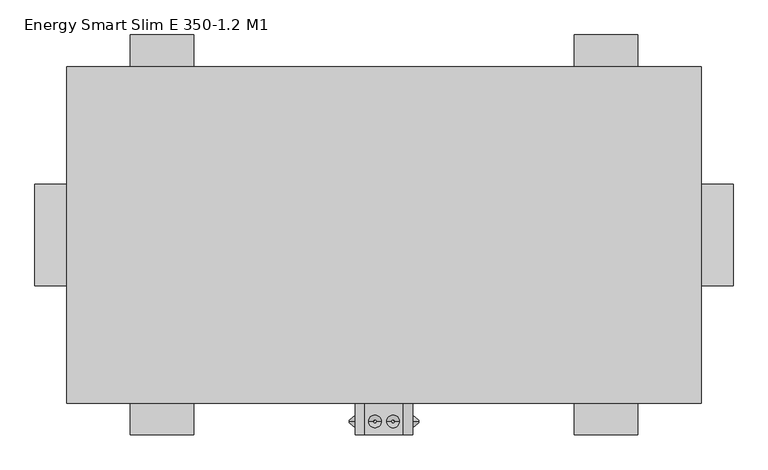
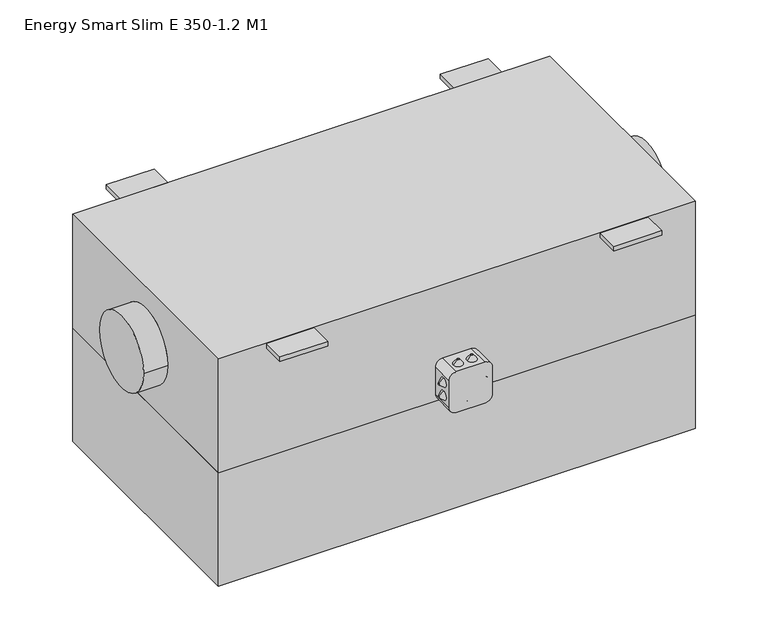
"""IFC4 building model written with IfcOpenShell, lengths in millimetres: proxy geometry, ADSK_КПВУ_ENERGY SMART SLIM E_круглая : Energy Smart Slim E 350-1.2 M1."""

from ifc_helpers import new_model, si_unit, point, frame, frame_2d, origin, place, context, project, spatial, polyline, circle_curve, trimmed, segment, composite_curve, outline, extrude, source, transform, mapped, element, save
from ifc_brep_helpers import plane_surface, cylinder_surface, revolved_surface, advanced_brep


def energy_smart_slim_e_350_1_2_m1_bdb5f192(model_context):
    return source(origin(), model_context, "Body", "SolidModel", [
        advanced_brep(
        [(211.0, -293.9311792, -97.7092609), (211.0, -293.9311792, -93.7092609), (221.0, -293.9311792, -105.7092609), (221.0, -293.9311792, -85.7092609)],
        [
            (0, 1, circle_curve(frame((211.0, -293.9311792, -95.7092609), z_axis=(-1.0, 0.0, 0.0), x_axis=(0.0, 0.0, -1.0)), 2.0)),
            (1, 0, circle_curve(frame((211.0, -293.9311792, -95.7092609), z_axis=(-1.0, 0.0, 0.0), x_axis=(0.0, 0.0, 1.0)), 2.0)),
            (2, 3, circle_curve(frame((221.0, -293.9311792, -95.7092609), z_axis=(1.0, 0.0, 0.0), x_axis=(0.0, 0.0, 1.0)), 10.0)),
            (3, 2, circle_curve(frame((221.0, -293.9311792, -95.7092609), z_axis=(1.0, 0.0, 0.0), x_axis=(0.0, 0.0, -1.0)), 10.0)),
            (2, 0),
            (1, 3),
        ],
        [
            plane_surface(frame((211.0, -293.9311792, -95.7092609), z_axis=(-1.0, 0.0, 0.0), x_axis=(0.0, -1.0, 0.0))),
            plane_surface(frame((221.0, -293.9311792, -95.7092609), z_axis=(1.0, 0.0, 0.0), x_axis=(0.0, -1.0, 0.0))),
            revolved_surface(polyline([(211.0, -293.9311792, -93.7092609), (221.0, -293.9311792, -85.7092609)]), (208.5, -293.9311792, -95.7092609), (1.0, 0.0, 0.0)),
            revolved_surface(polyline([(211.0, -293.9311792, -97.7092609), (221.0, -293.9311792, -105.7092609)]), (208.5, -293.9311792, -95.7092609), (1.0, 0.0, 0.0)),
        ],
        [
            (0, [[1, 2]]),
            (1, [[3, 4]]),
            (2, [[-3, 5, -2, 6]]),
            (3, [[-4, -6, -1, -5]]),
        ],
    ),
        advanced_brep(
        [(211.0, -293.9311792, -65.0531164), (211.0, -293.9311792, -69.0531164), (221.0, -293.9311792, -57.0531164), (221.0, -293.9311792, -77.0531164)],
        [
            (0, 1, circle_curve(frame((211.0, -293.9311792, -67.0531164), z_axis=(-1.0, 0.0, 0.0), x_axis=(0.0, 0.0, 1.0)), 2.0)),
            (1, 0, circle_curve(frame((211.0, -293.9311792, -67.0531164), z_axis=(-1.0, 0.0, 0.0), x_axis=(0.0, 0.0, -1.0)), 2.0)),
            (2, 3, circle_curve(frame((221.0, -293.9311792, -67.0531164), z_axis=(1.0, 0.0, 0.0), x_axis=(0.0, 0.0, -1.0)), 10.0)),
            (3, 2, circle_curve(frame((221.0, -293.9311792, -67.0531164), z_axis=(1.0, 0.0, 0.0), x_axis=(0.0, 0.0, 1.0)), 10.0)),
            (3, 1),
            (0, 2),
        ],
        [
            plane_surface(frame((211.0, -293.9311792, -67.0531164), z_axis=(-1.0, 0.0, 0.0), x_axis=(0.0, 1.0, 0.0))),
            plane_surface(frame((221.0, -293.9311792, -67.0531164), z_axis=(1.0, 0.0, 0.0), x_axis=(0.0, 1.0, 0.0))),
            revolved_surface(polyline([(211.0, -293.9311792, -65.0531164), (221.0, -293.9311792, -57.0531164)]), (208.5, -293.9311792, -67.0531164), (1.0, 0.0, 0.0)),
            revolved_surface(polyline([(211.0, -293.9311792, -69.0531164), (221.0, -293.9311792, -77.0531164)]), (208.5, -293.9311792, -67.0531164), (1.0, 0.0, 0.0)),
        ],
        [
            (0, [[1, 2]]),
            (1, [[3, 4]]),
            (2, [[-4, 5, -1, 6]]),
            (3, [[-3, -6, -2, -5]]),
        ],
    ),
        advanced_brep(
        [(321.0, -293.9311792, -97.7092609), (321.0, -293.9311792, -93.7092609), (311.0, -293.9311792, -105.7092609), (311.0, -293.9311792, -85.7092609)],
        [
            (0, 1, circle_curve(frame((321.0, -293.9311792, -95.7092609), z_axis=(1.0, 0.0, 0.0), x_axis=(0.0, 0.0, -1.0)), 2.0)),
            (1, 0, circle_curve(frame((321.0, -293.9311792, -95.7092609), z_axis=(1.0, 0.0, 0.0), x_axis=(0.0, 0.0, 1.0)), 2.0)),
            (2, 3, circle_curve(frame((311.0, -293.9311792, -95.7092609), z_axis=(-1.0, 0.0, 0.0), x_axis=(0.0, 0.0, 1.0)), 10.0)),
            (3, 2, circle_curve(frame((311.0, -293.9311792, -95.7092609), z_axis=(-1.0, 0.0, 0.0), x_axis=(0.0, 0.0, -1.0)), 10.0)),
            (3, 1),
            (0, 2),
        ],
        [
            plane_surface(frame((321.0, -293.9311792, -95.7092609), z_axis=(1.0, 0.0, 0.0), x_axis=(0.0, 1.0, 0.0))),
            plane_surface(frame((311.0, -293.9311792, -95.7092609), z_axis=(-1.0, 0.0, 0.0), x_axis=(0.0, 1.0, 0.0))),
            revolved_surface(polyline([(321.0, -293.9311792, -97.7092609), (311.0, -293.9311792, -105.7092609)]), (323.5, -293.9311792, -95.7092609), (-1.0, 0.0, 0.0)),
            revolved_surface(polyline([(321.0, -293.9311792, -93.7092609), (311.0, -293.9311792, -85.7092609)]), (323.5, -293.9311792, -95.7092609), (-1.0, 0.0, 0.0)),
        ],
        [
            (0, [[1, 2]]),
            (1, [[3, 4]]),
            (2, [[-4, 5, -1, 6]]),
            (3, [[-3, -6, -2, -5]]),
        ],
    ),
        advanced_brep(
        [(321.0, -293.9311792, -65.0531164), (321.0, -293.9311792, -69.0531164), (311.0, -293.9311792, -57.0531164), (311.0, -293.9311792, -77.0531164)],
        [
            (0, 1, circle_curve(frame((321.0, -293.9311792, -67.0531164), z_axis=(1.0, 0.0, 0.0), x_axis=(0.0, 0.0, 1.0)), 2.0)),
            (1, 0, circle_curve(frame((321.0, -293.9311792, -67.0531164), z_axis=(1.0, 0.0, 0.0), x_axis=(0.0, 0.0, -1.0)), 2.0)),
            (2, 3, circle_curve(frame((311.0, -293.9311792, -67.0531164), z_axis=(-1.0, 0.0, 0.0), x_axis=(0.0, 0.0, -1.0)), 10.0)),
            (3, 2, circle_curve(frame((311.0, -293.9311792, -67.0531164), z_axis=(-1.0, 0.0, 0.0), x_axis=(0.0, 0.0, 1.0)), 10.0)),
            (2, 0),
            (1, 3),
        ],
        [
            plane_surface(frame((321.0, -293.9311792, -67.0531164), z_axis=(1.0, 0.0, 0.0), x_axis=(0.0, -1.0, 0.0))),
            plane_surface(frame((311.0, -293.9311792, -67.0531164), z_axis=(-1.0, 0.0, 0.0), x_axis=(0.0, -1.0, 0.0))),
            revolved_surface(polyline([(321.0, -293.9311792, -69.0531164), (311.0, -293.9311792, -77.0531164)]), (323.5, -293.9311792, -67.0531164), (-1.0, 0.0, 0.0)),
            revolved_surface(polyline([(321.0, -293.9311792, -65.0531164), (311.0, -293.9311792, -57.0531164)]), (323.5, -293.9311792, -67.0531164), (-1.0, 0.0, 0.0)),
        ],
        [
            (0, [[1, 2]]),
            (1, [[3, 4]]),
            (2, [[-3, 5, -2, 6]]),
            (3, [[-4, -6, -1, -5]]),
        ],
    ),
        advanced_brep(
        [(249.6719278, -293.9311792, -136.0), (253.6719278, -293.9311792, -136.0), (241.6719278, -293.9311792, -126.0), (261.6719278, -293.9311792, -126.0)],
        [
            (0, 1, circle_curve(frame((251.6719278, -293.9311792, -136.0), z_axis=(0.0, 0.0, -1.0), x_axis=(-1.0, 0.0, 0.0)), 2.0)),
            (1, 0, circle_curve(frame((251.6719278, -293.9311792, -136.0), z_axis=(0.0, 0.0, -1.0), x_axis=(1.0, 0.0, 0.0)), 2.0)),
            (2, 3, circle_curve(frame((251.6719278, -293.9311792, -126.0), z_axis=(0.0, 0.0, 1.0), x_axis=(1.0, 0.0, 0.0)), 10.0)),
            (3, 2, circle_curve(frame((251.6719278, -293.9311792, -126.0), z_axis=(0.0, 0.0, 1.0), x_axis=(-1.0, 0.0, 0.0)), 10.0)),
            (3, 1),
            (0, 2),
        ],
        [
            plane_surface(frame((251.6719278, -293.9311792, -136.0), z_axis=(0.0, 0.0, -1.0), x_axis=(0.0, 1.0, 0.0))),
            plane_surface(frame((251.6719278, -293.9311792, -126.0), z_axis=(0.0, 0.0, 1.0), x_axis=(0.0, 1.0, 0.0))),
            revolved_surface(polyline([(249.6719278, -293.9311792, -136.0), (241.6719278, -293.9311792, -126.0)]), (251.6719278, -293.9311792, -138.5), (0.0, 0.0, 1.0)),
            revolved_surface(polyline([(253.6719278, -293.9311792, -136.0), (261.6719278, -293.9311792, -126.0)]), (251.6719278, -293.9311792, -138.5), (0.0, 0.0, 1.0)),
        ],
        [
            (0, [[1, 2]]),
            (1, [[3, 4]]),
            (2, [[-4, 5, -1, 6]]),
            (3, [[-3, -6, -2, -5]]),
        ],
    ),
        advanced_brep(
        [(282.3280722, -293.9311792, -136.0), (278.3280722, -293.9311792, -136.0), (290.3280722, -293.9311792, -126.0), (270.3280722, -293.9311792, -126.0)],
        [
            (0, 1, circle_curve(frame((280.3280722, -293.9311792, -136.0), z_axis=(0.0, 0.0, -1.0), x_axis=(1.0, 0.0, 0.0)), 2.0)),
            (1, 0, circle_curve(frame((280.3280722, -293.9311792, -136.0), z_axis=(0.0, 0.0, -1.0), x_axis=(-1.0, 0.0, 0.0)), 2.0)),
            (2, 3, circle_curve(frame((280.3280722, -293.9311792, -126.0), z_axis=(0.0, 0.0, 1.0), x_axis=(-1.0, 0.0, 0.0)), 10.0)),
            (3, 2, circle_curve(frame((280.3280722, -293.9311792, -126.0), z_axis=(0.0, 0.0, 1.0), x_axis=(1.0, 0.0, 0.0)), 10.0)),
            (2, 0),
            (1, 3),
        ],
        [
            plane_surface(frame((280.3280722, -293.9311792, -136.0), z_axis=(0.0, 0.0, -1.0), x_axis=(0.0, -1.0, 0.0))),
            plane_surface(frame((280.3280722, -293.9311792, -126.0), z_axis=(0.0, 0.0, 1.0), x_axis=(0.0, -1.0, 0.0))),
            revolved_surface(polyline([(278.3280722, -293.9311792, -136.0), (270.3280722, -293.9311792, -126.0)]), (280.3280722, -293.9311792, -138.5), (0.0, 0.0, 1.0)),
            revolved_surface(polyline([(282.3280722, -293.9311792, -136.0), (290.3280722, -293.9311792, -126.0)]), (280.3280722, -293.9311792, -138.5), (0.0, 0.0, 1.0)),
        ],
        [
            (0, [[1, 2]]),
            (1, [[3, 4]]),
            (2, [[-3, 5, -2, 6]]),
            (3, [[-4, -6, -1, -5]]),
        ],
    ),
        advanced_brep(
        [(249.6719278, -293.9311792, -26.0), (253.6719278, -293.9311792, -26.0), (241.6719278, -293.9311792, -36.0), (261.6719278, -293.9311792, -36.0)],
        [
            (0, 1, circle_curve(frame((251.6719278, -293.9311792, -26.0), z_axis=(0.0, 0.0, 1.0), x_axis=(-1.0, 0.0, 0.0)), 2.0)),
            (1, 0, circle_curve(frame((251.6719278, -293.9311792, -26.0), z_axis=(0.0, 0.0, 1.0), x_axis=(1.0, 0.0, 0.0)), 2.0)),
            (2, 3, circle_curve(frame((251.6719278, -293.9311792, -36.0), z_axis=(0.0, 0.0, -1.0), x_axis=(1.0, 0.0, 0.0)), 10.0)),
            (3, 2, circle_curve(frame((251.6719278, -293.9311792, -36.0), z_axis=(0.0, 0.0, -1.0), x_axis=(-1.0, 0.0, 0.0)), 10.0)),
            (2, 0),
            (1, 3),
        ],
        [
            plane_surface(frame((251.6719278, -293.9311792, -26.0), z_axis=(0.0, 0.0, 1.0), x_axis=(0.0, -1.0, 0.0))),
            plane_surface(frame((251.6719278, -293.9311792, -36.0), z_axis=(0.0, 0.0, -1.0), x_axis=(0.0, -1.0, 0.0))),
            revolved_surface(polyline([(253.6719278, -293.9311792, -26.0), (261.6719278, -293.9311792, -36.0)]), (251.6719278, -293.9311792, -23.5), (0.0, 0.0, -1.0)),
            revolved_surface(polyline([(249.6719278, -293.9311792, -26.0), (241.6719278, -293.9311792, -36.0)]), (251.6719278, -293.9311792, -23.5), (0.0, 0.0, -1.0)),
        ],
        [
            (0, [[1, 2]]),
            (1, [[3, 4]]),
            (2, [[-3, 5, -2, 6]]),
            (3, [[-4, -6, -1, -5]]),
        ],
    ),
        advanced_brep(
        [(282.3280722, -293.9311792, -26.0), (278.3280722, -293.9311792, -26.0), (290.3280722, -293.9311792, -36.0), (270.3280722, -293.9311792, -36.0)],
        [
            (0, 1, circle_curve(frame((280.3280722, -293.9311792, -26.0), z_axis=(0.0, 0.0, 1.0), x_axis=(1.0, 0.0, 0.0)), 2.0)),
            (1, 0, circle_curve(frame((280.3280722, -293.9311792, -26.0), z_axis=(0.0, 0.0, 1.0), x_axis=(-1.0, 0.0, 0.0)), 2.0)),
            (2, 3, circle_curve(frame((280.3280722, -293.9311792, -36.0), z_axis=(0.0, 0.0, -1.0), x_axis=(-1.0, 0.0, 0.0)), 10.0)),
            (3, 2, circle_curve(frame((280.3280722, -293.9311792, -36.0), z_axis=(0.0, 0.0, -1.0), x_axis=(1.0, 0.0, 0.0)), 10.0)),
            (3, 1),
            (0, 2),
        ],
        [
            plane_surface(frame((280.3280722, -293.9311792, -26.0), z_axis=(0.0, 0.0, 1.0), x_axis=(0.0, 1.0, 0.0))),
            plane_surface(frame((280.3280722, -293.9311792, -36.0), z_axis=(0.0, 0.0, -1.0), x_axis=(0.0, 1.0, 0.0))),
            revolved_surface(polyline([(282.3280722, -293.9311792, -26.0), (290.3280722, -293.9311792, -36.0)]), (280.3280722, -293.9311792, -23.5), (0.0, 0.0, -1.0)),
            revolved_surface(polyline([(278.3280722, -293.9311792, -26.0), (270.3280722, -293.9311792, -36.0)]), (280.3280722, -293.9311792, -23.5), (0.0, 0.0, -1.0)),
        ],
        [
            (0, [[1, 2]]),
            (1, [[3, 4]]),
            (2, [[-4, 5, -1, 6]]),
            (3, [[-3, -6, -2, -5]]),
        ],
    ),
        extrude(outline(composite_curve([segment(polyline([(-126.0, 236.0), (-126.0, 296.0)]), True, "CONTINUOUS"), segment(trimmed(circle_curve(frame_2d((-111.0, 296.0)), 15.0), [point((-126.0, 296.0))], [point((-111.0, 311.0))], False, "CARTESIAN"), True, "CONTINUOUS"), segment(polyline([(-111.0, 311.0), (-51.0, 311.0)]), True, "CONTINUOUS"), segment(trimmed(circle_curve(frame_2d((-51.0, 296.0)), 15.0), [point((-51.0, 311.0))], [point((-36.0, 296.0))], False, "CARTESIAN"), True, "CONTINUOUS"), segment(polyline([(-36.0, 296.0), (-36.0, 236.0)]), True, "CONTINUOUS"), segment(trimmed(circle_curve(frame_2d((-51.0, 236.0)), 15.0), [point((-36.0, 236.0))], [point((-51.0, 221.0))], False, "CARTESIAN"), True, "CONTINUOUS"), segment(polyline([(-51.0, 221.0), (-111.0, 221.0)]), True, "CONTINUOUS"), segment(trimmed(circle_curve(frame_2d((-111.0, 236.0)), 15.0), [point((-111.0, 221.0))], [point((-126.0, 236.0))], False, "CARTESIAN"), True, "CONTINUOUS")], self_intersect=False)), frame((0.0, -315.0, 0.0), z_axis=(0.0, 1.0, 0.0), x_axis=(0.0, 0.0, 1.0)), (0.0, 0.0, 1.0), 50.0),
        advanced_brep(
        [(766.0, -265.0, 126.0), (766.0, -265.0, -126.0), (766.0, 265.0, -126.0), (766.0, 265.0, 126.0), (766.0, 80.0, 0.0), (766.0, -80.0, 0.0), (-234.0, -265.0, 126.0), (-234.0, 265.0, 126.0), (-234.0, 265.0, -126.0), (-234.0, -265.0, -126.0), (-234.0, 80.0, 0.0), (-234.0, -80.0, 0.0), (-284.0, -80.0, 0.0), (-284.0, 80.0, 0.0), (816.0, -80.0, 0.0), (816.0, 80.0, 0.0)],
        [
            (0, 1),
            (1, 2),
            (2, 3),
            (3, 0),
            (4, 5, circle_curve(frame((766.0, 0.0, 0.0), z_axis=(-1.0, 0.0, 0.0), x_axis=(0.0, 1.0, 0.0)), 80.0)),
            (5, 4, circle_curve(frame((766.0, 0.0, 0.0), z_axis=(-1.0, 0.0, 0.0), x_axis=(0.0, 1.0, 0.0)), 80.0)),
            (6, 7),
            (7, 8),
            (8, 9),
            (9, 6),
            (10, 11, circle_curve(frame((-234.0, 0.0, 0.0), z_axis=(1.0, 0.0, 0.0), x_axis=(0.0, 1.0, 0.0)), 80.0)),
            (11, 10, circle_curve(frame((-234.0, 0.0, 0.0), z_axis=(1.0, 0.0, 0.0), x_axis=(0.0, 1.0, 0.0)), 80.0)),
            (12, 13, circle_curve(frame((-284.0, 0.0, 0.0), z_axis=(-1.0, 0.0, 0.0), x_axis=(0.0, 1.0, 0.0)), 80.0)),
            (13, 12, circle_curve(frame((-284.0, 0.0, 0.0), z_axis=(-1.0, 0.0, 0.0), x_axis=(0.0, 1.0, 0.0)), 80.0)),
            (0, 6),
            (9, 1),
            (8, 2),
            (7, 3),
            (12, 11),
            (10, 13),
            (14, 15, circle_curve(frame((816.0, 0.0, 0.0), z_axis=(1.0, 0.0, 0.0), x_axis=(0.0, 1.0, 0.0)), 80.0)),
            (15, 14, circle_curve(frame((816.0, 0.0, 0.0), z_axis=(1.0, 0.0, 0.0), x_axis=(0.0, 1.0, 0.0)), 80.0)),
            (14, 5),
            (4, 15),
        ],
        [
            plane_surface(frame((766.0, -265.0, 126.0), z_axis=(1.0, 0.0, 0.0), x_axis=(0.0, 0.0, -1.0))),
            plane_surface(frame((-234.0, -265.0, 126.0), z_axis=(-1.0, 0.0, 0.0), x_axis=(0.0, 0.0, 1.0))),
            plane_surface(frame((-284.0, 80.0, 0.0), z_axis=(-1.0, 0.0, 0.0), x_axis=(0.0, 0.0, -1.0))),
            plane_surface(frame((766.0, -265.0, 126.0), z_axis=(0.0, -1.0, 0.0), x_axis=(-1.0, 0.0, 0.0))),
            plane_surface(frame((766.0, -265.0, -126.0), z_axis=(0.0, 0.0, -1.0), x_axis=(-1.0, 0.0, 0.0))),
            plane_surface(frame((766.0, 265.0, -126.0), z_axis=(0.0, 1.0, 0.0), x_axis=(-1.0, 0.0, 0.0))),
            plane_surface(frame((766.0, 265.0, 126.0), z_axis=(0.0, 0.0, 1.0), x_axis=(-1.0, 0.0, 0.0))),
            cylinder_surface(frame((-284.0, 0.0, 0.0), z_axis=(1.0, 0.0, 0.0), x_axis=(0.0, 1.0, 0.0)), 80.0),
            plane_surface(frame((816.0, 80.0, 0.0), z_axis=(1.0, 0.0, 0.0), x_axis=(0.0, 0.0, 1.0))),
            cylinder_surface(frame((766.0, 0.0, 0.0), z_axis=(1.0, 0.0, 0.0), x_axis=(0.0, 1.0, 0.0)), 80.0),
        ],
        [
            (0, [[1, 2, 3, 4], [5, 6]]),
            (1, [[7, 8, 9, 10], [11, 12]]),
            (2, [[13, 14]]),
            (3, [[-1, 15, -10, 16]]),
            (4, [[-2, -16, -9, 17]]),
            (5, [[-3, -17, -8, 18]]),
            (6, [[-4, -18, -7, -15]]),
            (7, [[-13, 19, -11, 20]]),
            (7, [[-14, -20, -12, -19]]),
            (8, [[21, 22]]),
            (9, [[-21, 23, -5, 24]]),
            (9, [[-22, -24, -6, -23]]),
        ],
    ),
        extrude(outline(polyline([(-34.0, 315.0), (-34.0, 265.0), (-134.0, 265.0), (-134.0, 315.0), (-34.0, 315.0)])), frame((0.0, 0.0, 116.0), z_axis=(0.0, 0.0, 1.0), x_axis=(1.0, 0.0, 0.0)), (0.0, 0.0, 1.0), 10.0),
        extrude(outline(polyline([(566.0, 315.0), (666.0, 315.0), (666.0, 265.0), (566.0, 265.0), (566.0, 315.0)])), frame((0.0, 0.0, 116.0), z_axis=(0.0, 0.0, 1.0), x_axis=(1.0, 0.0, 0.0)), (0.0, 0.0, 1.0), 10.0),
        extrude(outline(polyline([(-34.0, -315.0), (-134.0, -315.0), (-134.0, -265.0), (-34.0, -265.0), (-34.0, -315.0)])), frame((0.0, 0.0, 116.0), z_axis=(0.0, 0.0, 1.0), x_axis=(1.0, 0.0, 0.0)), (0.0, 0.0, 1.0), 10.0),
        extrude(outline(polyline([(566.0, -315.0), (566.0, -265.0), (666.0, -265.0), (666.0, -315.0), (566.0, -315.0)])), frame((0.0, 0.0, 116.0), z_axis=(0.0, 0.0, 1.0), x_axis=(1.0, 0.0, 0.0)), (0.0, 0.0, 1.0), 10.0),
        extrude(outline(polyline([(766.0, 265.0), (766.0, -265.0), (-234.0, -265.0), (-234.0, 265.0), (766.0, 265.0)])), frame((0.0, 0.0, -378.0), z_axis=(0.0, 0.0, 1.0), x_axis=(1.0, 0.0, 0.0)), (0.0, 0.0, 1.0), 252.0),
    ])


if __name__ == "__main__":
    model = new_model("IFC4")
    model_context = context("Model", 3, world=origin())
    ifc_project = project(units=[si_unit("LENGTHUNIT", "METRE", prefix="MILLI")], contexts=[model_context])
    site = spatial("IfcSite", under=ifc_project)
    building = spatial("IfcBuilding", under=site)
    placement = place(None, origin())
    energy_smart_slim_e_350_1_2_m1_shape = energy_smart_slim_e_350_1_2_m1_bdb5f192(model_context)
    element("IfcBuildingElementProxy", 1, Name="ADSK_КПВУ_ENERGY SMART SLIM E_круглая : Energy Smart Slim E 350-1.2 M1", ObjectType="ADSK_КПВУ_ENERGY SMART SLIM E_круглая : Energy Smart Slim E 350-1.2 M1", at=placement, inside=building, context=model_context, shape_type="MappedRepresentation", body=[
        mapped(energy_smart_slim_e_350_1_2_m1_shape, transform((0.0, 0.0, 0.0), x_axis=(1.0, 0.0, 0.0), y_axis=(0.0, 1.0, 0.0), z_axis=(0.0, 0.0, 1.0))),
    ])
    save(model, "model.ifc")
